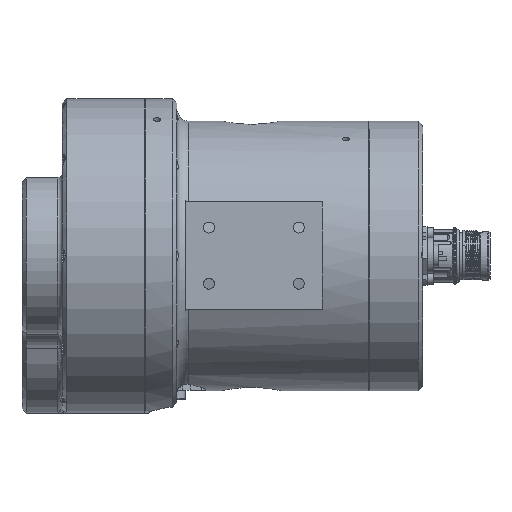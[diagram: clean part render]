
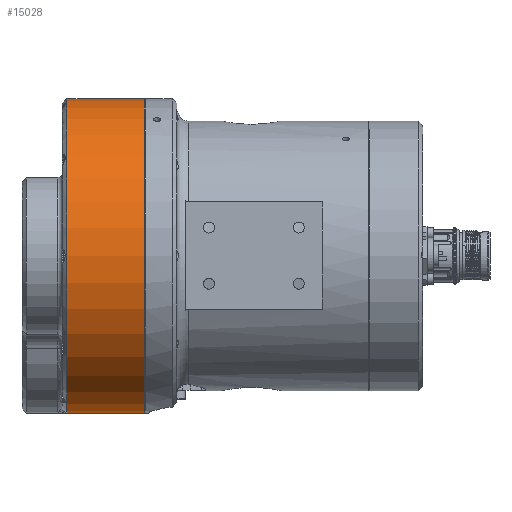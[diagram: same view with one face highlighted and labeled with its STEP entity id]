
A CAD part, top view. The second image highlights one B-rep face of the part: STEP entity #15028.
In plain terms, the highlighted cylindrical face has radius 70 mm (diameter 140 mm), a partial arc.
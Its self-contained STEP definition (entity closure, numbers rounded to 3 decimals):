
#1295=FACE_OUTER_BOUND('',#2139,.T.);
#2139=EDGE_LOOP('',(#9526,#9527,#9528,#9529));
#3079=LINE('',#21026,#4146);
#3080=LINE('',#21029,#4147);
#4146=VECTOR('',#17257,10.);
#4147=VECTOR('',#17260,10.);
#5213=CIRCLE('',#15902,70.);
#5214=CIRCLE('',#15903,70.);
#5816=VERTEX_POINT('',#21022);
#5817=VERTEX_POINT('',#21023);
#5818=VERTEX_POINT('',#21025);
#5819=VERTEX_POINT('',#21027);
#7297=EDGE_CURVE('',#5816,#5817,#5213,.T.);
#7298=EDGE_CURVE('',#5818,#5816,#3079,.T.);
#7299=EDGE_CURVE('',#5819,#5818,#5214,.T.);
#7300=EDGE_CURVE('',#5817,#5819,#3080,.T.);
#9526=ORIENTED_EDGE('',*,*,#7297,.F.);
#9527=ORIENTED_EDGE('',*,*,#7298,.F.);
#9528=ORIENTED_EDGE('',*,*,#7299,.F.);
#9529=ORIENTED_EDGE('',*,*,#7300,.F.);
#13984=CYLINDRICAL_SURFACE('',#15901,70.);
#15028=ADVANCED_FACE('',(#1295),#13984,.T.);
#15901=AXIS2_PLACEMENT_3D('',#21021,#17253,#17254);
#15902=AXIS2_PLACEMENT_3D('',#21024,#17255,#17256);
#15903=AXIS2_PLACEMENT_3D('',#21028,#17258,#17259);
#17253=DIRECTION('center_axis',(-1.,0.,0.));
#17254=DIRECTION('ref_axis',(0.,1.,0.));
#17255=DIRECTION('center_axis',(-1.,0.,0.));
#17256=DIRECTION('ref_axis',(0.,1.,0.));
#17257=DIRECTION('',(-1.,0.,0.));
#17258=DIRECTION('center_axis',(1.,0.,0.));
#17259=DIRECTION('ref_axis',(0.,0.,
-1.));
#17260=DIRECTION('',(1.,0.,0.));
#21021=CARTESIAN_POINT('Origin',(-0.2,0.,
0.));
#21022=CARTESIAN_POINT('',(-30.2,-70.,0.));
#21023=CARTESIAN_POINT('',(-30.2,0.,-70.));
#21024=CARTESIAN_POINT('Origin',(-30.2,0.,0.));
#21025=CARTESIAN_POINT('',(4.3,-70.,0.));
#21026=CARTESIAN_POINT('',(-0.2,-70.,0.));
#21027=CARTESIAN_POINT('',(4.3,0.,-70.));
#21028=CARTESIAN_POINT('Origin',(4.3,0.,
0.));
#21029=CARTESIAN_POINT('',(-0.2,0.,-70.));
